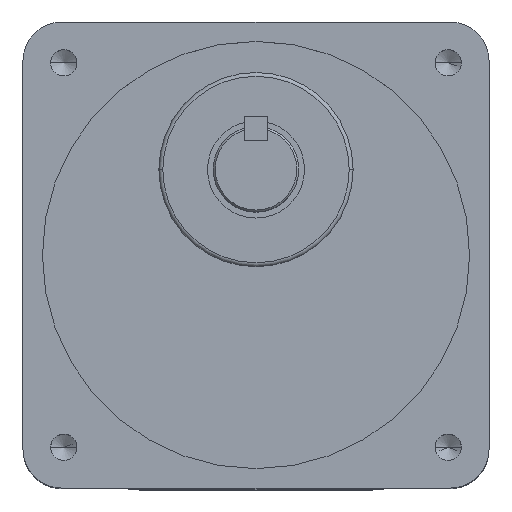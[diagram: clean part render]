
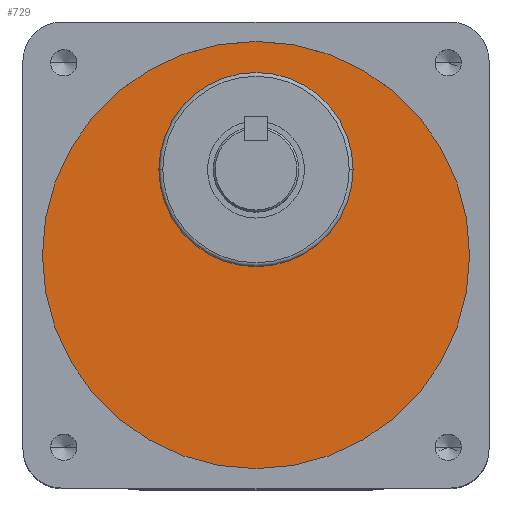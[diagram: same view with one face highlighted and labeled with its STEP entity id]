
A CAD part, top view. The second image highlights one B-rep face of the part: STEP entity #729.
In plain terms, the highlighted planar face has unit normal (0, 0, 1).
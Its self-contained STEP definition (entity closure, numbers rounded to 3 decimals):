
#332 = FACE_BOUND ( 'NONE', #747, .T. ) ;
#357 = VERTEX_POINT ( 'NONE', #2508 ) ;
#363 = AXIS2_PLACEMENT_3D ( 'NONE', #2004, #2002, #1999 ) ;
#480 = CIRCLE ( 'NONE', #1037, 25. ) ;
#577 = EDGE_CURVE ( 'NONE', #2341, #357, #1628, .T. ) ;
#591 = DIRECTION ( 'NONE',  ( 1., 0., 0. ) ) ;
#596 = DIRECTION ( 'NONE',  ( 0., 0., 1. ) ) ;
#601 = CARTESIAN_POINT ( 'NONE',  ( 0., 0., -2. ) ) ;
#606 = VERTEX_POINT ( 'NONE', #2020 ) ;
#681 = EDGE_CURVE ( 'NONE', #357, #2341, #480, .T. ) ;
#704 = EDGE_CURVE ( 'NONE', #2252, #606, #1066, .T. ) ;
#729 = ADVANCED_FACE ( 'NONE', ( #332, #1724 ), #1811, .T. ) ;
#747 = EDGE_LOOP ( 'NONE', ( #1064, #1648 ) ) ;
#1037 = AXIS2_PLACEMENT_3D ( 'NONE', #1790, #1787, #1784 ) ;
#1064 = ORIENTED_EDGE ( 'NONE', *, *, #577, .F. ) ;
#1066 = CIRCLE ( 'NONE', #1587, 55. ) ;
#1101 = EDGE_CURVE ( 'NONE', #606, #2252, #1698, .T. ) ;
#1203 = EDGE_LOOP ( 'NONE', ( #1825, #1990 ) ) ;
#1350 = AXIS2_PLACEMENT_3D ( 'NONE', #601, #596, #591 ) ;
#1407 = CARTESIAN_POINT ( 'NONE',  ( -55., 0., -2. ) ) ;
#1587 = AXIS2_PLACEMENT_3D ( 'NONE', #1741, #1739, #1731 ) ;
#1626 = CARTESIAN_POINT ( 'NONE',  ( -25., 22., -2. ) ) ;
#1628 = CIRCLE ( 'NONE', #363, 25. ) ;
#1648 = ORIENTED_EDGE ( 'NONE', *, *, #681, .F. ) ;
#1669 = DIRECTION ( 'NONE',  ( 1., 0., 0. ) ) ;
#1672 = DIRECTION ( 'NONE',  ( 0., 0., 1. ) ) ;
#1698 = CIRCLE ( 'NONE', #1350, 55. ) ;
#1724 = FACE_OUTER_BOUND ( 'NONE', #1203, .T. ) ;
#1731 = DIRECTION ( 'NONE',  ( 1., 0., 0. ) ) ;
#1739 = DIRECTION ( 'NONE',  ( 0., 0., 1. ) ) ;
#1741 = CARTESIAN_POINT ( 'NONE',  ( 0., 0., -2. ) ) ;
#1749 = CARTESIAN_POINT ( 'NONE',  ( 0., 0., -2. ) ) ;
#1784 = DIRECTION ( 'NONE',  ( 1., 0., 0. ) ) ;
#1787 = DIRECTION ( 'NONE',  ( 0., 0., 1. ) ) ;
#1790 = CARTESIAN_POINT ( 'NONE',  ( 0., 22., -2. ) ) ;
#1811 = PLANE ( 'NONE',  #2231 ) ;
#1825 = ORIENTED_EDGE ( 'NONE', *, *, #1101, .T. ) ;
#1990 = ORIENTED_EDGE ( 'NONE', *, *, #704, .T. ) ;
#1999 = DIRECTION ( 'NONE',  ( 1., 0., 0. ) ) ;
#2002 = DIRECTION ( 'NONE',  ( 0., 0., 1. ) ) ;
#2004 = CARTESIAN_POINT ( 'NONE',  ( 0., 22., -2. ) ) ;
#2020 = CARTESIAN_POINT ( 'NONE',  ( 55., 0., -2. ) ) ;
#2231 = AXIS2_PLACEMENT_3D ( 'NONE', #1749, #1672, #1669 ) ;
#2252 = VERTEX_POINT ( 'NONE', #1407 ) ;
#2341 = VERTEX_POINT ( 'NONE', #1626 ) ;
#2508 = CARTESIAN_POINT ( 'NONE',  ( 25., 22., -2. ) ) ;
